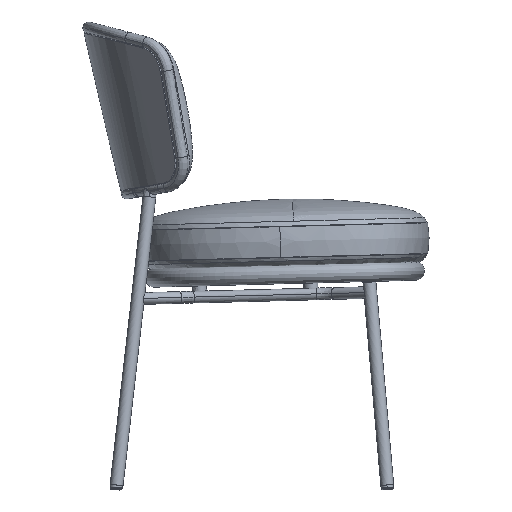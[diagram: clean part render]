
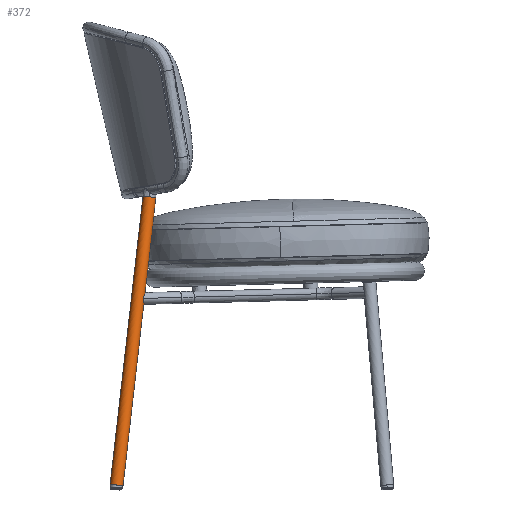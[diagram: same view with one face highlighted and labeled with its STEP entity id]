
A CAD part, left-side view. The second image highlights one B-rep face of the part: STEP entity #372.
In plain terms, the highlighted cylindrical face has radius 11 mm (diameter 22 mm), a partial arc.
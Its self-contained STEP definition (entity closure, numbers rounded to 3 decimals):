
#372=ADVANCED_FACE('',(#686),#4293,.T.);
#686=FACE_OUTER_BOUND('',#1008,.T.);
#1008=EDGE_LOOP('',(#2225,#2226,#2227,#2228,#2229,#2230,#2231));
#2225=ORIENTED_EDGE('',*,*,#2983,.T.);
#2226=ORIENTED_EDGE('',*,*,#2956,.F.);
#2227=ORIENTED_EDGE('',*,*,#2955,.F.);
#2228=ORIENTED_EDGE('',*,*,#2954,.F.);
#2229=ORIENTED_EDGE('',*,*,#2953,.F.);
#2230=ORIENTED_EDGE('',*,*,#2960,.F.);
#2231=ORIENTED_EDGE('',*,*,#2984,.F.);
#2953=EDGE_CURVE('',#4112,#4113,#3458,.T.);
#2954=EDGE_CURVE('',#4113,#4114,#3459,.T.);
#2955=EDGE_CURVE('',#4114,#4115,#3460,.T.);
#2956=EDGE_CURVE('',#4115,#4116,#3461,.T.);
#2960=EDGE_CURVE('',#4118,#4112,#3465,.T.);
#2983=EDGE_CURVE('',#4131,#4116,#3476,.T.);
#2984=EDGE_CURVE('',#4131,#4118,#3477,.T.);
#3458=(
BOUNDED_CURVE()
B_SPLINE_CURVE(2,(#80248,#80249,#80250),.UNSPECIFIED.,.F.,.F.)
B_SPLINE_CURVE_WITH_KNOTS((3,3),(-84.3,-64.002),
 .UNSPECIFIED.)
CURVE()
GEOMETRIC_REPRESENTATION_ITEM()
RATIONAL_B_SPLINE_CURVE((1.,0.731,1.))
REPRESENTATION_ITEM('')
);
#3459=(
BOUNDED_CURVE()
B_SPLINE_CURVE(2,(#80251,#80252,#80253),.UNSPECIFIED.,.F.,.F.)
B_SPLINE_CURVE_WITH_KNOTS((3,3),(-64.002,-62.966),
 .UNSPECIFIED.)
CURVE()
GEOMETRIC_REPRESENTATION_ITEM()
RATIONAL_B_SPLINE_CURVE((1.,0.999,1.))
REPRESENTATION_ITEM('')
);
#3460=(
BOUNDED_CURVE()
B_SPLINE_CURVE(2,(#80254,#80255,#80256),.UNSPECIFIED.,.F.,.F.)
B_SPLINE_CURVE_WITH_KNOTS((3,3),(-62.966,-42.668),
 .UNSPECIFIED.)
CURVE()
GEOMETRIC_REPRESENTATION_ITEM()
RATIONAL_B_SPLINE_CURVE((1.,0.731,1.))
REPRESENTATION_ITEM('')
);
#3461=(
BOUNDED_CURVE()
B_SPLINE_CURVE(2,(#80257,#80258,#80259),.UNSPECIFIED.,.F.,.F.)
B_SPLINE_CURVE_WITH_KNOTS((3,3),(-42.668,-41.632),
 .UNSPECIFIED.)
CURVE()
GEOMETRIC_REPRESENTATION_ITEM()
RATIONAL_B_SPLINE_CURVE((1.,0.999,1.))
REPRESENTATION_ITEM('')
);
#3465=(
BOUNDED_CURVE()
B_SPLINE_CURVE(1,(#80271,#80272),.UNSPECIFIED.,.F.,.F.)
B_SPLINE_CURVE_WITH_KNOTS((2,2),(23.27,519.975),
 .UNSPECIFIED.)
CURVE()
GEOMETRIC_REPRESENTATION_ITEM()
RATIONAL_B_SPLINE_CURVE((1.,1.))
REPRESENTATION_ITEM('')
);
#3476=(
BOUNDED_CURVE()
B_SPLINE_CURVE(1,(#80486,#80487),.UNSPECIFIED.,.F.,.F.)
B_SPLINE_CURVE_WITH_KNOTS((2,2),(23.27,519.975),
 .UNSPECIFIED.)
CURVE()
GEOMETRIC_REPRESENTATION_ITEM()
RATIONAL_B_SPLINE_CURVE((1.,1.))
REPRESENTATION_ITEM('')
);
#3477=(
BOUNDED_CURVE()
B_SPLINE_CURVE(2,(#80488,#80489,#80490,#80491,#80492),.UNSPECIFIED.,.F.,
 .F.)
B_SPLINE_CURVE_WITH_KNOTS((3,2,3),(34.558,51.836,69.115),
 .UNSPECIFIED.)
CURVE()
GEOMETRIC_REPRESENTATION_ITEM()
RATIONAL_B_SPLINE_CURVE((1.,0.707,1.,0.707,1.))
REPRESENTATION_ITEM('')
);
#4112=VERTEX_POINT('',#80220);
#4113=VERTEX_POINT('',#80221);
#4114=VERTEX_POINT('',#80222);
#4115=VERTEX_POINT('',#80223);
#4116=VERTEX_POINT('',#80224);
#4118=VERTEX_POINT('',#80226);
#4131=VERTEX_POINT('',#80239);
#4293=CYLINDRICAL_SURFACE('',#4686,11.);
#4686=AXIS2_PLACEMENT_3D('',#80216,#4820,$);
#4820=DIRECTION('',(-0.069,0.113,-0.991));
#80216=CARTESIAN_POINT('',(85.09,506.252,254.176));
#80220=CARTESIAN_POINT('',(102.288,489.116,501.746));
#80221=CARTESIAN_POINT('',(91.341,478.861,501.342));
#80222=CARTESIAN_POINT('',(91.315,478.1,501.257));
#80223=CARTESIAN_POINT('',(101.525,467.278,499.311));
#80224=CARTESIAN_POINT('',(102.288,467.257,499.256));
#80226=CARTESIAN_POINT('',(67.892,545.246,9.096));
#80239=CARTESIAN_POINT('',(67.892,523.388,6.606));
#80248=CARTESIAN_POINT('',(102.288,489.116,501.746));
#80249=CARTESIAN_POINT('',(92.054,489.035,502.452));
#80250=CARTESIAN_POINT('',(91.341,478.861,501.342));
#80251=CARTESIAN_POINT('',(91.341,478.861,501.342));
#80252=CARTESIAN_POINT('',(91.315,478.481,501.301));
#80253=CARTESIAN_POINT('',(91.315,478.1,501.257));
#80254=CARTESIAN_POINT('',(91.315,478.1,501.257));
#80255=CARTESIAN_POINT('',(91.315,467.907,500.096));
#80256=CARTESIAN_POINT('',(101.525,467.278,499.311));
#80257=CARTESIAN_POINT('',(101.525,467.278,499.311));
#80258=CARTESIAN_POINT('',(101.906,467.254,499.282));
#80259=CARTESIAN_POINT('',(102.288,467.257,499.256));
#80271=CARTESIAN_POINT('',(67.892,545.246,9.096));
#80272=CARTESIAN_POINT('',(102.288,489.116,501.746));
#80486=CARTESIAN_POINT('',(67.892,523.388,6.606));
#80487=CARTESIAN_POINT('',(102.288,467.257,499.256));
#80488=CARTESIAN_POINT('',(67.892,523.388,6.606));
#80489=CARTESIAN_POINT('',(56.918,523.301,7.362));
#80490=CARTESIAN_POINT('',(56.918,534.231,8.607));
#80491=CARTESIAN_POINT('',(56.918,545.16,9.853));
#80492=CARTESIAN_POINT('',(67.892,545.246,9.096));
